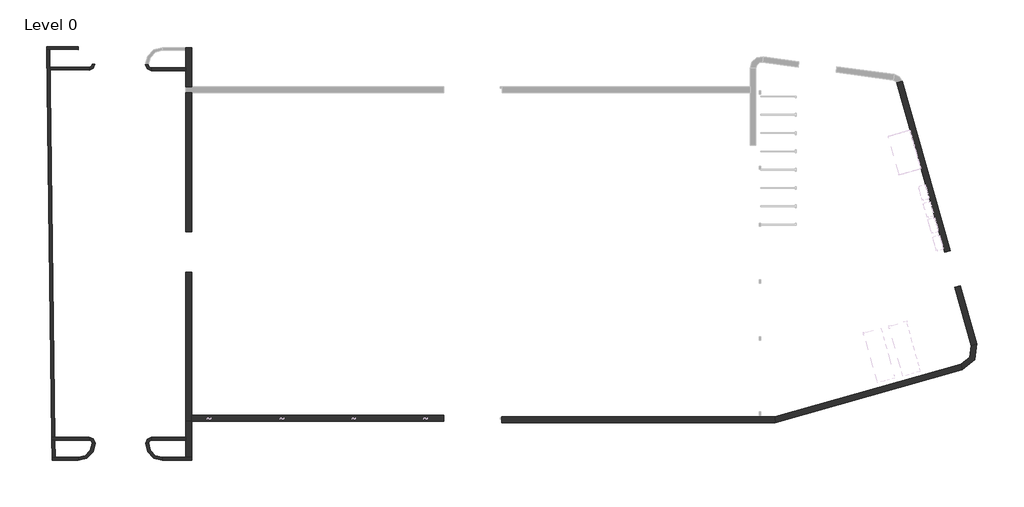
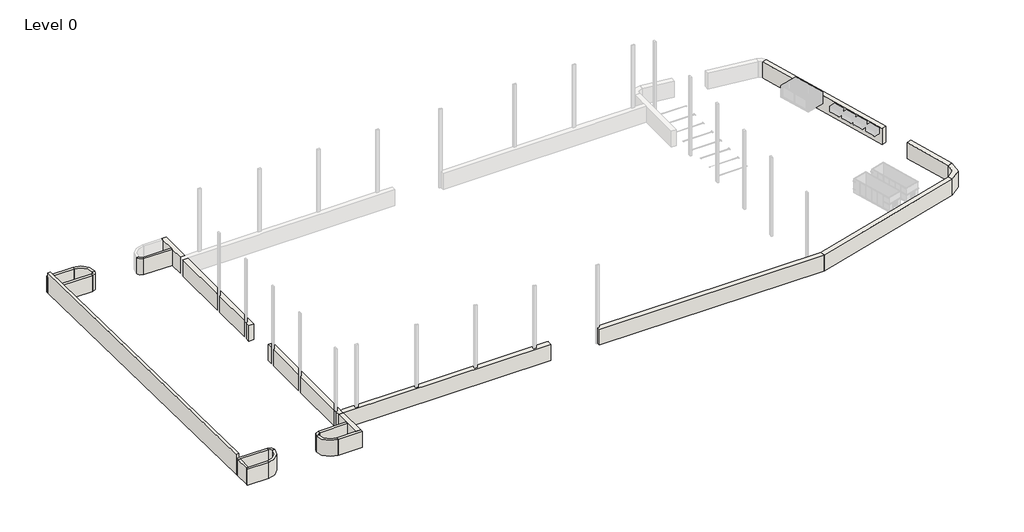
# One storey, part 1 of 2: 26 walls.
"""IFC4 building model written with IfcOpenShell, lengths in millimetres."""

import ifcopenshell
import ifcopenshell.guid

model = None  # the IFC model being written
_history = None  # IfcOwnerHistory: only IFC2X3 demands one
_inside = {}  # id of a spatial element -> (the spatial element, [elements in it])
_under = {}  # id of a project, library or spatial element -> (it, [spatial elements below it])
_declared = {}  # id of a project -> (the project, [libraries it declares])
_typed = {}  # id of a type object -> (the type object, [elements of that type])
_made_of = {}  # id of a material, layer set ... -> (it, [elements and type objects made of it])


def new_model(schema):
    """Start an empty IFC model of exactly this schema.

    Asked for "IFC4X3", IfcOpenShell would pick the latest addendum, in which some entities
    have other attributes; the version numbers below select the first issue.
    IFC2X3 requires an IfcOwnerHistory on every rooted entity: one is made here for all.
    """
    global model, _history
    if schema == "IFC4X3":
        model = ifcopenshell.file(schema_version=(4, 3, 0, 0))
    else:
        model = ifcopenshell.file(schema=schema)
    _inside.clear()
    _under.clear()
    _declared.clear()
    _typed.clear()
    _made_of.clear()
    _history = None
    if model.schema == "IFC2X3":
        org = make("IfcOrganization", Name="unknown")
        user = make(
            "IfcPersonAndOrganization",
            ThePerson=make("IfcPerson", FamilyName="unknown"),
            TheOrganization=org,
        )
        app = make(
            "IfcApplication",
            ApplicationDeveloper=org,
            Version="unknown",
            ApplicationFullName="unknown",
            ApplicationIdentifier="unknown",
        )
        _history = make(
            "IfcOwnerHistory",
            OwningUser=user,
            OwningApplication=app,
            ChangeAction="ADDED",
            CreationDate=0,
        )
    return model


def make(cls, **values):
    """One entity of the class cls with the attributes given. An attribute that is None is left unset."""
    return model.create_entity(
        cls, **{name: value for name, value in values.items() if value is not None}
    )


def rooted(cls, **values):
    """An entity with a GlobalId (a new one), such as an element, a storey or a relation."""
    return make(cls, GlobalId=ifcopenshell.guid.new(), OwnerHistory=_history, **values)


def si_unit(unit_type, name, prefix=None):
    """IfcSIUnit, for example si_unit("LENGTHUNIT", "METRE", prefix="MILLI")."""
    return make("IfcSIUnit", UnitType=unit_type, Prefix=prefix, Name=name)


def assignment(units):
    """IfcUnitAssignment: the units of a project."""
    return None if units is None else make("IfcUnitAssignment", Units=units)


def point(xyz):
    """IfcCartesianPoint."""
    return None if xyz is None else make("IfcCartesianPoint", Coordinates=xyz)


def direction(xyz):
    """IfcDirection."""
    return None if xyz is None else make("IfcDirection", DirectionRatios=xyz)


def frame(location, z_axis=None, x_axis=None):
    """IfcAxis2Placement3D, a coordinate frame: its origin and axes. An axis left out is left unset."""
    return make(
        "IfcAxis2Placement3D",
        Location=point(location),
        Axis=direction(z_axis),
        RefDirection=direction(x_axis),
    )


def frame_2d(location, x_axis=None):
    """IfcAxis2Placement2D, a coordinate frame in the plane: its origin and x axis."""
    return make(
        "IfcAxis2Placement2D", Location=point(location), RefDirection=direction(x_axis)
    )


def origin():
    """The frame at (0, 0, 0) with its axes left unset."""
    return frame((0.0, 0.0, 0.0))


def origin_with_axes():
    """The frame at (0, 0, 0) with the z axis (0, 0, 1) and the x axis (1, 0, 0) written out."""
    return frame((0.0, 0.0, 0.0), z_axis=(0.0, 0.0, 1.0), x_axis=(1.0, 0.0, 0.0))


def place(relative_to, where):
    """IfcLocalPlacement: puts the frame where relative to a parent placement (None: the world)."""
    return make(
        "IfcLocalPlacement", PlacementRelTo=relative_to, RelativePlacement=where
    )


def context(
    kind, dimensions, precision=None, world=None, true_north=None, identifier=None
):
    """IfcGeometricRepresentationContext, for example the 3D "Model" context."""
    return make(
        "IfcGeometricRepresentationContext",
        ContextIdentifier=identifier,
        ContextType=kind,
        CoordinateSpaceDimension=dimensions,
        Precision=precision,
        WorldCoordinateSystem=world,
        TrueNorth=true_north,
    )


def project(units=None, contexts=None):
    """IfcProject with its units and contexts."""
    return rooted(
        "IfcProject",
        Name="project",
        RepresentationContexts=contexts,
        UnitsInContext=assignment(units),
    )


def spatial(cls, under=None, at=None, **own):
    """A site, building, storey or space (cls), placed at a placement, below another one or the project."""
    s = rooted(cls, ObjectPlacement=at, **own)
    if under is not None:
        _under.setdefault(under.id(), (under, []))[1].append(s)
    return s


def polyline(points):
    """IfcPolyline through the points."""
    return make("IfcPolyline", Points=[point(p) for p in points])


def circle_curve(where, radius):
    """IfcCircle in the frame where."""
    return make("IfcCircle", Position=where, Radius=radius)


def trimmed(basis, trim1, trim2, sense, master):
    """IfcTrimmedCurve: the piece of a basis curve between two trims."""
    return make(
        "IfcTrimmedCurve",
        BasisCurve=basis,
        Trim1=trim1,
        Trim2=trim2,
        SenseAgreement=sense,
        MasterRepresentation=master,
    )


def segment(curve, same_sense, transition):
    """IfcCompositeCurveSegment."""
    return make(
        "IfcCompositeCurveSegment",
        Transition=transition,
        SameSense=same_sense,
        ParentCurve=curve,
    )


def composite_curve(segments, self_intersect=None):
    """IfcCompositeCurve: segments joined end to end."""
    return make("IfcCompositeCurve", Segments=segments, SelfIntersect=self_intersect)


def outline(outer, holes=None, kind="AREA"):
    """IfcArbitraryClosedProfileDef: a profile drawn as a closed curve; with holes, ...WithVoids."""
    if holes is None:
        return make("IfcArbitraryClosedProfileDef", ProfileType=kind, OuterCurve=outer)
    return make(
        "IfcArbitraryProfileDefWithVoids",
        ProfileType=kind,
        OuterCurve=outer,
        InnerCurves=holes,
    )


def extrude(swept, where, along, depth):
    """IfcExtrudedAreaSolid: the profile swept, set in the frame where, extruded along a direction by depth."""
    return make(
        "IfcExtrudedAreaSolid",
        SweptArea=swept,
        Position=where,
        ExtrudedDirection=direction(along),
        Depth=depth,
    )


def faces_of(points, faces, orient=None, outer=None):
    """IfcFace entities. A face is a list of loops; a loop is a list of indices into points, from 0.

    orient and outer hold one flag for each loop. By default every Orientation is true, the
    first loop of a face is its IfcFaceOuterBound and the others are IfcFaceBound.
    """
    made = []
    for i, loops in enumerate(faces):
        bounds = []
        for j, loop in enumerate(loops):
            is_outer = j == 0 if outer is None else outer[i][j]
            bounds.append(
                make(
                    "IfcFaceOuterBound" if is_outer else "IfcFaceBound",
                    Bound=make("IfcPolyLoop", Polygon=[points[k] for k in loop]),
                    Orientation=True if orient is None else orient[i][j],
                )
            )
        made.append(make("IfcFace", Bounds=bounds))
    return made


def faceted_brep(points, faces, orient=None, outer=None, voids=None):
    """IfcFacetedBrep: a solid bounded by flat faces; with voids (closed shells), ...WithVoids."""
    shared = [point(p) for p in points]
    hull = make("IfcClosedShell", CfsFaces=faces_of(shared, faces, orient, outer))
    if voids is None:
        return make("IfcFacetedBrep", Outer=hull)
    return make(
        "IfcFacetedBrepWithVoids",
        Outer=hull,
        Voids=[
            make(cls, CfsFaces=faces_of(shared, fs, o, b)) for cls, fs, o, b in voids
        ],
    )


def shape(context_of_items, identifier, shape_type, items):
    """IfcShapeRepresentation: the items that make up one representation, for example the "Body"."""
    return make(
        "IfcShapeRepresentation",
        ContextOfItems=context_of_items,
        RepresentationIdentifier=identifier,
        RepresentationType=shape_type,
        Items=items,
    )


def made_of(thing, what):
    """Note that an element or type object is made of a material, layer set ...; save() writes the relation."""
    if what is not None:
        _made_of.setdefault(what.id(), (what, []))[1].append(thing)
    return thing


def element(
    cls,
    number,
    at=None,
    inside=None,
    cuts=None,
    type_object=None,
    material=None,
    context=None,
    identifier="Body",
    shape_type=None,
    held_by="IfcProductDefinitionShape",
    body=None,
    shapes=None,
    **own,
):
    """One element of the class cls, such as IfcWall. Its Tag is "e" and its number.

    at: its placement. inside: the storey or other place that contains it. cuts: it is an
    opening in that element (IfcRelVoidsElement). A single representation is given by context,
    identifier, shape_type and body (its items); several are given by shapes. held_by: the class
    of the entity that holds the representations. save() writes the other relations.
    """
    e = rooted(cls, Tag="e%d" % number, ObjectPlacement=at, **own)
    if body is not None:
        shapes = [shape(context, identifier, shape_type, body)]
    if shapes is not None:
        e.Representation = make(held_by, Representations=shapes)
    if inside is not None:
        _inside.setdefault(inside.id(), (inside, []))[1].append(e)
    if cuts is not None:
        rooted(
            "IfcRelVoidsElement", RelatingBuildingElement=cuts, RelatedOpeningElement=e
        )
    if type_object is not None:
        _typed.setdefault(type_object.id(), (type_object, []))[1].append(e)
    return made_of(e, material)


def aggregate(whole, parts):
    """IfcRelAggregates: a whole, such as a stair, and the parts it consists of."""
    return rooted("IfcRelAggregates", RelatingObject=whole, RelatedObjects=parts)


def save(model, path):
    """Write the relations noted so far, then the file.

    IfcRelAggregates (storeys below a building ...), IfcRelContainedInSpatialStructure (elements
    in a storey), IfcRelDefinesByType, IfcRelAssociatesMaterial and IfcRelDeclares: one each for
    every whole, place, type object, material and project.
    """
    for whole, parts in _under.values():
        aggregate(whole, parts)
    for where, things in _inside.values():
        rooted(
            "IfcRelContainedInSpatialStructure",
            RelatedElements=things,
            RelatingStructure=where,
        )
    for kind, things in _typed.values():
        rooted("IfcRelDefinesByType", RelatedObjects=things, RelatingType=kind)
    for what, things in _made_of.values():
        rooted("IfcRelAssociatesMaterial", RelatedObjects=things, RelatingMaterial=what)
    for by, libraries in _declared.values():
        rooted("IfcRelDeclares", RelatingContext=by, RelatedDefinitions=libraries)
    model.write(path)


def plane_surface(at):
    """IfcPlane: the flat surface through the origin of the frame at, square to its z axis."""
    return make("IfcPlane", Position=at)


def cylinder_surface(at, radius):
    """IfcCylindricalSurface: all points at the distance radius from the z axis of the frame at."""
    return make("IfcCylindricalSurface", Position=at, Radius=radius)


def revolved_surface(curve, axis_point, axis_direction):
    """IfcSurfaceOfRevolution: the curve turned about the line through axis_point along axis_direction."""
    return make(
        "IfcSurfaceOfRevolution",
        SweptCurve=make("IfcArbitraryOpenProfileDef", ProfileType="CURVE", Curve=curve),
        AxisPosition=make("IfcAxis1Placement", Location=point(axis_point), Axis=direction(axis_direction)),
    )


def advanced_brep(points, edges, surfaces, faces):
    """IfcAdvancedBrep: a solid bounded by faces that lie on surfaces and meet in shared edges.

    An edge is (start, end): straight between two places in points (the first is 0);
    or (start, end, curve); or (start, end, curve, False) where it runs against its curve.
    A face is (place in surfaces, loops), or (place, loops, False) where it looks against
    its surface's normal. A loop lists edges by number (the first is 1), with a minus sign
    where the edge is run from its end to its start. The first loop is the outer one.
    """
    corners = [point(p) for p in points]
    vertices = [make("IfcVertexPoint", VertexGeometry=c) for c in corners]
    made = []
    for start, end, *more in edges:
        made.append(
            make(
                "IfcEdgeCurve",
                EdgeStart=vertices[start],
                EdgeEnd=vertices[end],
                EdgeGeometry=more[0] if more else make("IfcPolyline", Points=[corners[start], corners[end]]),
                SameSense=more[1] if len(more) > 1 else True,
            )
        )
    hull = []
    for where, loops, *sense in faces:
        bounds = []
        for j, loop in enumerate(loops):
            ring = [make("IfcOrientedEdge", EdgeElement=made[abs(k) - 1], Orientation=k > 0) for k in loop]
            bounds.append(
                make(
                    "IfcFaceOuterBound" if j == 0 else "IfcFaceBound",
                    Bound=make("IfcEdgeLoop", EdgeList=ring),
                    Orientation=True,
                )
            )
        hull.append(make("IfcAdvancedFace", Bounds=bounds, FaceSurface=surfaces[where], SameSense=sense[0] if sense else True))
    return make("IfcAdvancedBrep", Outer=make("IfcClosedShell", CfsFaces=hull))


model = new_model("IFC4")

# Units and contexts
model_context = context("Model", 3, world=origin())
ifc_project = project(units=[si_unit("LENGTHUNIT", "METRE", prefix="MILLI")], contexts=[model_context])

# Site, building, storey
site = spatial("IfcSite", under=ifc_project)
building = spatial("IfcBuilding", under=site)
storey = spatial("IfcBuildingStorey", under=building, Name="Level 0", Elevation=0.0)

# Walls
placement = place(None, origin())
element("IfcWall", 1, ObjectType="400 WIDE LANDSCAPE WALL", at=placement, inside=storey, context=model_context, shape_type="Brep", body=[
    faceted_brep([(-93629.8905835, -42194.1159452, 0.0), (-89652.2528943, -42194.1159452, 0.0), (-89652.2528943, -42194.1159452, 2800.0), (-93629.8905835, -42194.1159452, 2800.0), (-93629.8905835, -41794.1159452, 0.0), (-93629.8905835, -41794.1159452, 2800.0), (-90452.2528943, -41794.1159452, 2800.0), (-89652.2528943, -41794.1159452, 2800.0), (-89652.2528943, -41794.1159452, 0.0), (-90452.2528943, -41794.1159452, 0.0)], [[[0, 1, 2, 3]], [[4, 5, 6, 7, 8, 9]], [[1, 0, 4, 9, 8]], [[3, 2, 7, 6, 5]], [[0, 3, 5, 4]], [[2, 1, 8, 7]]]),
])
element("IfcWall", 2, ObjectType="400 WIDE LANDSCAPE WALL", at=placement, inside=storey, context=model_context, shape_type="SweptSolid", body=[
    extrude(outline(composite_curve([segment(polyline([(-95929.1780908, -39836.9262616), (-95529.3020026, -39846.8818661)]), True, "CONTINUOUS"), segment(trimmed(circle_curve(frame_2d((-93629.8905835, -39894.1709876)), 1900.0), [point((-95529.3020026, -39846.8818661))], [point((-93629.8905835, -41794.1709876))], True, "CARTESIAN"), True, "CONTINUOUS"), segment(polyline([(-93629.8905835, -41794.1709876), (-93629.8905835, -42194.1709876)]), True, "CONTINUOUS"), segment(trimmed(circle_curve(frame_2d((-93629.8905835, -39894.1709876)), 2300.0), [point((-93629.8905835, -42194.1709876))], [point((-95929.1780908, -39836.9262616))], False, "CARTESIAN"), True, "CONTINUOUS")], self_intersect=False)), origin_with_axes(), (0.0, 0.0, 1.0), 2800.0),
])
element("IfcWall", 3, ObjectType="400 WIDE LANDSCAPE WALL", at=placement, inside=storey, context=model_context, shape_type="SweptSolid", body=[
    extrude(outline(polyline([(-90452.2528943, -39441.919367), (-95128.6253815, -39441.919367), (-95128.6253815, -39041.919367), (-90452.2528943, -39041.919367), (-90452.2528943, -39441.919367)])), origin_with_axes(), (0.0, 0.0, 1.0), 2800.0),
])
element("IfcWall", 4, ObjectType="400 WIDE LANDSCAPE WALL", at=placement, inside=storey, context=model_context, shape_type="SweptSolid", body=[
    extrude(outline(composite_curve([segment(polyline([(-95528.6253815, -39841.919367), (-95928.6253815, -39841.919367)]), True, "CONTINUOUS"), segment(trimmed(circle_curve(frame_2d((-95128.6253815, -39841.919367)), 800.0), [point((-95928.6253815, -39841.919367))], [point((-95128.6253815, -39041.919367))], False, "CARTESIAN"), True, "CONTINUOUS"), segment(polyline([(-95128.6253815, -39041.919367), (-95128.6253815, -39441.919367)]), True, "CONTINUOUS"), segment(trimmed(circle_curve(frame_2d((-95128.6253815, -39841.919367)), 400.0), [point((-95128.6253815, -39441.919367))], [point((-95528.6253815, -39841.919367))], True, "CARTESIAN"), True, "CONTINUOUS")], self_intersect=False)), origin_with_axes(), (0.0, 0.0, 1.0), 2800.0),
])
element("IfcWall", 5, ObjectType="400 WIDE LANDSCAPE WALL", at=placement, inside=storey, context=model_context, shape_type="Brep", body=[
    faceted_brep([(-105113.3733383, -41794.1159452, 0.0), (-108290.9789512, -41794.1159452, 0.0), (-108691.0110276, -41794.1159452, 0.0), (-108691.0110276, -41794.1159452, 2800.0), (-108290.9789512, -41794.1159452, 2800.0), (-105113.3733383, -41794.1159452, 2800.0), (-105113.3733383, -42194.1159452, 0.0), (-105113.3733383, -42194.1159452, 2800.0), (-108685.9452476, -42194.1159452, 2800.0), (-108685.9452476, -42194.1159452, 0.0)], [[[0, 1, 2, 3, 4, 5]], [[6, 7, 8, 9]], [[2, 1, 0, 6, 9]], [[5, 4, 3, 8, 7]], [[0, 5, 7, 6]], [[3, 2, 9, 8]]]),
])
element("IfcWall", 6, ObjectType="400 WIDE LANDSCAPE WALL", at=placement, inside=storey, context=model_context, shape_type="AdvancedBrep", body=[
    advanced_brep(
    [(-103213.9619192, -39846.8818661, 2800.0), (-105113.3733383, -41794.1709876, 2800.0), (-105113.3733383, -42194.1709876, 2800.0), (-102814.085831, -39836.9262616, 2800.0), (-102814.6540343, -39836.940408, 2800.0), (-103014.6385404, -39841.919367, 2800.0), (-103213.9619192, -39846.8818661, 0.0), (-103014.6385404, -39841.919367, 0.0), (-102814.6540343, -39836.940408, 0.0), (-102814.085831, -39836.9262616, 0.0), (-105113.3733383, -42194.1709876, 0.0), (-105113.3733383, -41794.1709876, 0.0)],
    [
        (0, 1, circle_curve(frame((-105113.3733383, -39894.1709876, 2800.0), z_axis=(0.0, 0.0, -1.0), x_axis=(1.0, 0.0, 0.0)), 1900.0)),
        (1, 2),
        (2, 3, circle_curve(frame((-105113.3733383, -39894.1709876, 2800.0), z_axis=(0.0, 0.0, 1.0), x_axis=(1.0, 0.0, 0.0)), 2300.0)),
        (3, 4),
        (4, 5),
        (5, 0),
        (6, 7),
        (7, 8),
        (8, 9),
        (9, 10, circle_curve(frame((-105113.3733383, -39894.1709876, 0.0), z_axis=(0.0, 0.0, -1.0), x_axis=(1.0, 0.0, 0.0)), 2300.0)),
        (10, 11),
        (11, 6, circle_curve(frame((-105113.3733383, -39894.1709876, 0.0), z_axis=(0.0, 0.0, 1.0), x_axis=(1.0, 0.0, 0.0)), 1900.0)),
        (0, 6),
        (11, 1),
        (10, 2),
        (9, 3),
    ],
    [
        plane_surface(frame((-103213.3733383, -39894.1709876, 2800.0), z_axis=(0.0, 0.0, 1.0), x_axis=(0.0, -1.0, 0.0))),
        plane_surface(frame((-103213.3733383, -39894.1709876, 0.0), z_axis=(0.0, 0.0, -1.0), x_axis=(0.0, 1.0, 0.0))),
        revolved_surface(polyline([(-103213.3733383, -39894.1709876, 0.0), (-103213.3733383, -39894.1709876, 2800.0)]), (-105113.3733383, -39894.1709876, 0.0), (0.0, 0.0, -1.0)),
        plane_surface(frame((-105113.3733383, -41794.1709876, 2800.0), z_axis=(-1.0, 0.0, 0.0), x_axis=(0.0, 0.0, -1.0))),
        cylinder_surface(frame((-105113.3733383, -39894.1709876, 0.0), z_axis=(0.0, 0.0, 1.0), x_axis=(1.0, 0.0, 0.0)), 2300.0),
        plane_surface(frame((-102814.085831, -39836.9262616, 2800.0), z_axis=(-0.02488901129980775, 0.9996902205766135, 0.0), x_axis=(0.0, 0.0, -1.0))),
    ],
    [
        (0, [[1, 2, 3, 4, 5, 6]]),
        (1, [[7, 8, 9, 10, 11, 12]]),
        (2, [[-1, 13, -12, 14]]),
        (3, [[-2, -14, -11, 15]]),
        (4, [[-3, -15, -10, 16]]),
        (5, [[-6, -5, -4, -16, -9, -8, -7, -13]]),
    ],
),
])
element("IfcWall", 7, ObjectType="400 WIDE LANDSCAPE WALL", at=placement, inside=storey, context=model_context, shape_type="Brep", body=[
    faceted_brep([(-103614.6385404, -39041.919367, 0.0), (-108333.1837876, -39041.919367, 0.0), (-108725.8660829, -39041.919367, 0.0), (-108725.8660829, -39041.919367, 2800.0), (-103614.6385404, -39041.919367, 2800.0), (-103614.6385404, -39441.919367, 0.0), (-103614.6385404, -39441.919367, 2800.0), (-108320.7682266, -39441.919367, 2800.0), (-108720.800303, -39441.919367, 2800.0), (-108720.800303, -39441.919367, 0.0), (-108320.7682266, -39441.919367, 0.0)], [[[0, 1, 2, 3, 4]], [[5, 6, 7, 8, 9, 10]], [[2, 1, 0, 5, 10, 9]], [[4, 3, 8, 7, 6]], [[0, 4, 6, 5]], [[3, 2, 9, 8]]]),
])
element("IfcWall", 8, ObjectType="400 WIDE LANDSCAPE WALL", at=placement, inside=storey, context=model_context, shape_type="SweptSolid", body=[
    extrude(outline(composite_curve([segment(polyline([(-103614.6385404, -39441.919367), (-103614.6385404, -39041.919367)]), True, "CONTINUOUS"), segment(trimmed(circle_curve(frame_2d((-103614.6385404, -39841.919367)), 800.0), [point((-103614.6385404, -39041.919367))], [point((-102814.6540343, -39836.940408))], False, "CARTESIAN"), True, "CONTINUOUS"), segment(polyline([(-102814.6540343, -39836.940408), (-103014.6385404, -39841.919367), (-103214.6385404, -39841.919367)]), True, "CONTINUOUS"), segment(trimmed(circle_curve(frame_2d((-103614.6385404, -39841.919367)), 400.0), [point((-103214.6385404, -39841.919367))], [point((-103614.6385404, -39441.919367))], True, "CARTESIAN"), True, "CONTINUOUS")], self_intersect=False)), origin_with_axes(), (0.0, 0.0, 1.0), 2800.0),
])
element("IfcWall", 9, ObjectType="400 WIDE LANDSCAPE WALL", at=placement, inside=storey, context=model_context, shape_type="SweptSolid", body=[
    extrude(outline(polyline([(-90452.2528943, 10962.1194932), (-95157.1472593, 11003.2126306), (-95153.6537424, 11403.1973745), (-90452.2528943, 11362.1347499), (-90452.2528943, 10962.1194932)])), origin_with_axes(), (0.0, 0.0, 1.0), 2800.0),
])
element("IfcWall", 10, ObjectType="400 WIDE LANDSCAPE WALL", at=placement, inside=storey, context=model_context, shape_type="SweptSolid", body=[
    extrude(outline(composite_curve([segment(polyline([(-95153.6537424, 11403.1973745), (-95157.1472593, 11003.2126306)]), True, "CONTINUOUS"), segment(trimmed(circle_curve(frame_2d((-95150.1602255, 11803.1821183)), 800.0), [point((-95157.1472593, 11003.2126306))], [point((-95950.1577052, 11805.1902477))], False, "CARTESIAN"), True, "CONTINUOUS"), segment(polyline([(-95950.1577052, 11805.1902477), (-95750.1373413, 11808.4223937), (-95550.1449694, 11806.6756353)]), True, "CONTINUOUS"), segment(trimmed(circle_curve(frame_2d((-95150.1602255, 11803.1821183)), 400.0), [point((-95550.1449694, 11806.6756353))], [point((-95153.6537424, 11403.1973745))], True, "CARTESIAN"), True, "CONTINUOUS")], self_intersect=False)), origin_with_axes(), (0.0, 0.0, 1.0), 2800.0),
])
element("IfcWall", 11, ObjectType="400 WIDE LANDSCAPE WALL", at=placement, inside=storey, context=model_context, shape_type="Brep", body=[
    faceted_brep([(-105098.0723606, 14242.3547255, 0.0), (-109447.2166489, 14280.3406971, 0.0), (-109447.2166489, 14280.3406971, 2800.0), (-105098.0723606, 14242.3547255, 2800.0), (-105103.0155319, 13842.382643, 0.0), (-105103.0155319, 13842.382643, 2800.0), (-109441.8597285, 13880.2786523, 2800.0), (-109441.8597285, 13880.2786523, 0.0), (-109041.7770801, 13876.7842803, 0.0)], [[[0, 1, 2, 3]], [[4, 5, 6, 7, 8]], [[1, 0, 4, 8, 7]], [[3, 2, 6, 5]], [[0, 3, 5, 4]], [[2, 1, 7, 6]]]),
])
element("IfcWall", 12, ObjectType="400 WIDE LANDSCAPE WALL", at=placement, inside=storey, context=model_context, shape_type="AdvancedBrep", body=[
    advanced_brep(
    [(-102835.3711581, 11865.3124185, 2800.0), (-105098.0723606, 14242.3547255, 2800.0), (-105103.0155319, 13842.382643, 2800.0), (-103235.1450448, 11878.760078, 2800.0), (-103035.8726096, 11872.0569192, 2800.0), (-102835.9392162, 11865.3315269, 2800.0), (-102835.3711581, 11865.3124185, 0.0), (-102835.9392162, 11865.3315269, 0.0), (-103035.8726096, 11872.0569192, 0.0), (-103235.1450448, 11878.760078, 0.0), (-105103.0155319, 13842.382643, 0.0), (-105098.0723606, 14242.3547255, 0.0)],
    [
        (0, 1, circle_curve(frame((-105134.0710064, 11942.6364606, 2800.0), z_axis=(0.0, 0.0, 1.0), x_axis=(0.9999618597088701, -0.008733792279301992, 0.0)), 2300.0)),
        (1, 2),
        (2, 3, circle_curve(frame((-105134.0710064, 11942.6364606, 2800.0), z_axis=(0.0, 0.0, -1.0), x_axis=(0.9999618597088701, -0.008733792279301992, 0.0)), 1900.0)),
        (3, 4),
        (4, 5),
        (5, 0),
        (6, 7),
        (7, 8),
        (8, 9),
        (9, 10, circle_curve(frame((-105134.0710064, 11942.6364606, 0.0), z_axis=(0.0, 0.0, 1.0), x_axis=(0.9999618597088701, -0.008733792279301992, 0.0)), 1900.0)),
        (10, 11),
        (11, 6, circle_curve(frame((-105134.0710064, 11942.6364606, 0.0), z_axis=(0.0, 0.0, -1.0), x_axis=(0.9999618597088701, -0.008733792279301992, 0.0)), 2300.0)),
        (0, 6),
        (11, 1),
        (2, 10),
        (9, 3),
    ],
    [
        plane_surface(frame((-102834.1587291, 11922.5487384, 2800.0), z_axis=(0.0, 0.0, 1.0), x_axis=(0.008733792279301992, 0.9999618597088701, 0.0))),
        plane_surface(frame((-102834.1587291, 11922.5487384, 0.0), z_axis=(0.0, 0.0, -1.0), x_axis=(-0.008733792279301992, -0.9999618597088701, 0.0))),
        cylinder_surface(frame((-105134.0710064, 11942.6364606, 0.0), z_axis=(0.0, 0.0, 1.0), x_axis=(0.9999618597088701, -0.008733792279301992, 0.0)), 2300.0),
        revolved_surface(polyline([(-103234.14347295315, 11926.042255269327, 0.0), (-103234.14347295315, 11926.042255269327, 2800.0)]), (-105134.0710064, 11942.6364606, 0.0), (0.0, 0.0, -1.0)),
        plane_surface(frame((-103235.1450448, 11878.760078, 2800.0), z_axis=(-0.033619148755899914, -0.9994347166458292, 0.0), x_axis=(0.0, 0.0, -1.0))),
        plane_surface(frame((-105098.0723606, 14242.3547255, 0.0), z_axis=(-0.9999236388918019, 0.012357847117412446, 0.0), x_axis=(-0.012357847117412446, -0.9999236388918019, 0.0))),
    ],
    [
        (0, [[1, 2, 3, 4, 5, 6]]),
        (1, [[7, 8, 9, 10, 11, 12]]),
        (2, [[-1, 13, -12, 14]]),
        (3, [[-3, 15, -10, 16]]),
        (4, [[-6, -5, -4, -16, -9, -8, -7, -13]]),
        (5, [[-2, -14, -11, -15]]),
    ],
),
])
element("IfcWall", 13, ObjectType="400 WIDE LANDSCAPE WALL", at=placement, inside=storey, context=model_context, shape_type="SweptSolid", body=[
    extrude(outline(polyline([(-109010.2757557, 11524.2228488), (-103639.3432423, 11477.3124507), (-103642.8367592, 11077.3277068), (-109004.9188353, 11124.160804), (-109010.2757557, 11524.2228488)])), origin_with_axes(), (0.0, 0.0, 1.0), 2800.0),
])
element("IfcWall", 14, ObjectType="400 WIDE LANDSCAPE WALL", at=placement, inside=storey, context=model_context, shape_type="SweptSolid", body=[
    extrude(outline(composite_curve([segment(trimmed(circle_curve(frame_2d((-103635.8497254, 11877.2971946)), 400.0), [point((-103639.3432423, 11477.3124507))], [point((-103235.8649815, 11873.8036776))], True, "CARTESIAN"), True, "CONTINUOUS"), segment(polyline([(-103235.8649815, 11873.8036776), (-103035.8726096, 11872.0569192), (-102835.9392162, 11865.3315269)]), True, "CONTINUOUS"), segment(trimmed(circle_curve(frame_2d((-103635.8497254, 11877.2971946)), 800.0), [point((-102835.9392162, 11865.3315269))], [point((-103642.8367592, 11077.3277068))], False, "CARTESIAN"), True, "CONTINUOUS"), segment(polyline([(-103642.8367592, 11077.3277068), (-103639.3432423, 11477.3124507)]), True, "CONTINUOUS")], self_intersect=False)), origin_with_axes(), (0.0, 0.0, 1.0), 2800.0),
])
element("IfcWall", 15, ObjectType="400 WIDE LANDSCAPE WALL", at=placement, inside=storey, context=model_context, shape_type="Brep", body=[
    faceted_brep([(-108333.1837876, -39041.919367, 0.0), (-109004.9188353, 11124.160804, 0.0), (-109010.2757557, 11524.2228488, 0.0), (-109041.7770801, 13876.7842803, 0.0), (-109041.7770801, 13876.7842803, 3562.8613277), (-108333.1837876, -39041.919367, 3562.8613277), (-108733.2196456, -39041.919367, 0.0), (-108733.2196456, -39041.919367, 3562.8613277), (-109441.8597285, 13880.2786523, 3562.8613277), (-109441.8597285, 13880.2786523, 2800.0), (-109441.8597285, 13880.2786523, 0.0), (-108725.8660829, -39041.919367, 0.0)], [[[0, 1, 2, 3, 4, 5]], [[6, 7, 8, 9, 10]], [[3, 2, 1, 0, 11, 6, 10]], [[5, 4, 8, 7]], [[4, 3, 10, 9, 8]], [[0, 5, 7, 6, 11]]]),
])
element("IfcWall", 16, ObjectType="400 WIDE LANDSCAPE WALL", at=placement, inside=storey, context=model_context, shape_type="SweptSolid", body=[
    extrude(outline(polyline([(-108320.7682266, -39441.919367), (-108290.9789512, -41794.1159452), (-108691.0110276, -41794.1159452), (-108720.800303, -39441.919367), (-108320.7682266, -39441.919367)])), origin_with_axes(), (0.0, 0.0, 1.0), 2800.0),
])
element("IfcWall", 17, ObjectType="800 wide planter", at=placement, inside=storey, context=model_context, shape_type="SweptSolid", body=[
    extrude(outline(polyline([(15501.2653875, -29842.232045), (-9980.9888728, -37051.8782073), (-10091.9816779, -36251.8782073), (15283.4720949, -29072.4489056), (15501.2653875, -29842.232045)])), origin_with_axes(), (0.0, 0.0, 1.0), 2800.0),
])
element("IfcWall", 18, ObjectType="800 wide planter", at=placement, inside=storey, context=model_context, shape_type="SweptSolid", body=[
    extrude(outline(polyline([(15234.8474349, -18379.2148733), (17477.634161, -26306.2698663), (16707.8510216, -26524.0631588), (14465.0642954, -18597.0081659), (15234.8474349, -18379.2148733)])), origin_with_axes(), (0.0, 0.0, 1.0), 2800.0),
])
element("IfcWall", 19, ObjectType="800 wide planter", at=placement, inside=storey, context=model_context, shape_type="Brep", body=[
    faceted_brep([(-47298.0450997, -37051.8782073, 0.0), (-9980.9888728, -37051.8782073, 0.0), (-9980.9888728, -37051.8782073, 2800.0), (-47298.0450997, -37051.8782073, 2800.0), (-47298.0450997, -36251.8782073, 0.0), (-47298.0450997, -36251.8782073, 2800.0), (-10091.9816779, -36251.8782073, 2800.0), (-10091.9816779, -36251.8782073, 0.0), (-47298.0450997, -36605.9222204, 0.0), (-47298.0450997, -36405.9222204, 0.0), (-47298.0450997, -36405.9222204, 2800.0), (-47298.0450997, -36605.9222204, 2800.0)], [[[0, 1, 2, 3]], [[4, 5, 6, 7]], [[1, 0, 8, 9, 4, 7]], [[3, 2, 6, 5, 10, 11]], [[0, 3, 11, 10, 5, 4, 9, 8]], [[2, 1, 7, 6]]]),
])
element("IfcWall", 20, ObjectType="800 wide planter", at=placement, inside=storey, context=model_context, shape_type="SweptSolid", body=[
    extrude(outline(polyline([(7322.7560881, 9562.4467161), (13872.585711, -13568.3684843), (13102.8502885, -13786.3303602), (6562.2399071, 9311.9269597), (7322.7560881, 9562.4467161)])), origin_with_axes(), (0.0, 0.0, 1.0), 2800.0),
])
element("IfcWall", 21, ObjectType="800 wide planter", at=placement, inside=storey, context=model_context, shape_type="Brep", body=[
    faceted_brep([(-90452.2528943, 7978.5855015, 0.0), (-90452.2528943, -2040.9199596, 0.0), (-90452.2528943, -2490.9199596, 0.0), (-90452.2528943, -9800.9199596, 0.0), (-90452.2528943, -10250.9199596, 0.0), (-90452.2528943, -11005.9199596, 0.0), (-90452.2528943, -11005.9199596, 2800.0), (-90452.2528943, -10250.9199596, 2800.0), (-90452.2528943, -9800.9199596, 2800.0), (-90452.2528943, -2490.9199596, 2800.0), (-90452.2528943, -2040.9199596, 2800.0), (-90452.2528943, 7978.5855015, 2800.0), (-89652.2528943, 7978.5855015, 0.0), (-89652.2528943, 7978.5855015, 2000.0), (-89652.2528943, 7978.5855015, 2800.0), (-89652.2528943, 7694.0800404, 2800.0), (-89652.2528943, -1965.9199596, 2800.0), (-89652.2528943, -2565.9199596, 2800.0), (-89652.2528943, -9725.9199596, 2800.0), (-89652.2528943, -10325.9199596, 2800.0), (-89652.2528943, -11005.9199596, 2800.0), (-89652.2528943, -11005.9199596, 0.0)], [[[0, 1, 2, 3, 4, 5, 6, 7, 8, 9, 10, 11]], [[12, 13, 14, 15, 16, 17, 18, 19, 20, 21]], [[5, 4, 3, 2, 1, 0, 12, 21]], [[6, 5, 21, 20]], [[11, 10, 9, 8, 7, 6, 20, 19, 18, 17, 16, 15, 14]], [[0, 11, 14, 13, 12]]]),
])
element("IfcWall", 22, ObjectType="800 wide planter", at=placement, inside=storey, context=model_context, shape_type="Brep", body=[
    faceted_brep([(-90452.2528943, -16538.667229, 0.0), (-90452.2528943, -17560.9199596, 0.0), (-90452.2528943, -18010.9199596, 0.0), (-90452.2528943, -25320.9199596, 0.0), (-90452.2528943, -25770.9199596, 0.0), (-90452.2528943, -35580.9199596, 0.0), (-90452.2528943, -36030.9199596, 0.0), (-90452.2528943, -36838.667229, 0.0), (-90452.2528943, -36838.667229, 2800.0), (-90452.2528943, -36030.9199596, 2800.0), (-90452.2528943, -35580.9199596, 2800.0), (-90452.2528943, -25770.9199596, 2800.0), (-90452.2528943, -25320.9199596, 2800.0), (-90452.2528943, -18010.9199596, 2800.0), (-90452.2528943, -17560.9199596, 2800.0), (-90452.2528943, -16538.667229, 2800.0), (-89652.2528943, -16538.667229, 0.0), (-89652.2528943, -16538.667229, 2800.0), (-89652.2528943, -17485.9199596, 2800.0), (-89652.2528943, -18085.9199596, 2800.0), (-89652.2528943, -25245.9199596, 2800.0), (-89652.2528943, -25845.9199596, 2800.0), (-89652.2528943, -35505.9199596, 2800.0), (-89652.2528943, -36038.667229, 2800.0), (-89652.2528943, -36838.667229, 2800.0), (-89652.2528943, -36838.667229, 0.0), (-89652.2528943, -36038.667229, 0.0)], [[[0, 1, 2, 3, 4, 5, 6, 7, 8, 9, 10, 11, 12, 13, 14, 15]], [[16, 17, 18, 19, 20, 21, 22, 23, 24, 25, 26]], [[7, 6, 5, 4, 3, 2, 1, 0, 16, 26, 25]], [[15, 14, 13, 12, 11, 10, 9, 8, 24, 23, 22, 21, 20, 19, 18, 17]], [[0, 15, 17, 16]], [[8, 7, 25, 24]]]),
])
element("IfcWall", 23, ObjectType="800 wide planter", at=placement, inside=storey, context=model_context, shape_type="Brep", body=[
    faceted_brep([(-89652.2528943, -36838.667229, 0.0), (-55222.5881141, -36838.667229, 0.0), (-55222.5881141, -36838.667229, 2800.0), (-89652.2528943, -36838.667229, 2800.0), (-89652.2528943, -36038.667229, 0.0), (-89652.2528943, -36038.667229, 2000.0), (-89652.2528943, -36038.667229, 2800.0), (-89359.8408447, -36038.667229, 2800.0), (-77659.8408447, -36038.667229, 2800.0), (-77059.8408447, -36038.667229, 2800.0), (-67830.3056755, -36038.667229, 2800.0), (-67230.3056755, -36038.667229, 2800.0), (-55530.3056755, -36038.667229, 2800.0), (-55222.5881141, -36038.667229, 2800.0), (-55222.5881141, -36038.667229, 2000.0), (-55222.5881141, -36038.667229, 0.0), (-55222.5881141, -36105.9199596, 2800.0)], [[[0, 1, 2, 3]], [[4, 5, 6, 7, 8, 9, 10, 11, 12, 13, 14, 15]], [[1, 0, 4, 15]], [[2, 1, 15, 14, 13, 16]], [[3, 2, 16, 13, 12, 11, 10, 9, 8, 7, 6]], [[0, 3, 6, 5, 4]]]),
])
element("IfcWall", 24, ObjectType="800 wide planter", at=placement, inside=storey, context=model_context, shape_type="SweptSolid", body=[
    extrude(outline(composite_curve([segment(polyline([(15501.2653875, -29842.232045), (15283.4720949, -29072.4489056)]), True, "CONTINUOUS"), segment(trimmed(circle_curve(frame_2d((14721.4686848, -27086.0665689)), 2064.3552554), [point((15283.4720949, -29072.4489056))], [point((16707.8510216, -26524.0631588))], True, "CARTESIAN"), True, "CONTINUOUS"), segment(polyline([(16707.8510216, -26524.0631588), (17477.634161, -26306.2698663)]), True, "CONTINUOUS"), segment(trimmed(circle_curve(frame_2d((14721.4686848, -27086.0665689)), 2864.3552554), [point((17477.634161, -26306.2698663))], [point((15501.2653875, -29842.232045))], False, "CARTESIAN"), True, "CONTINUOUS")], self_intersect=False)), origin_with_axes(), (0.0, 0.0, 1.0), 2800.0),
])
element("IfcWall", 25, ObjectType="800 wide planter", at=placement, inside=storey, context=model_context, shape_type="Brep", body=[
    faceted_brep([(-89652.2528943, 8778.5855015, 0.0), (-89652.2528943, 14107.4490013, 0.0), (-89652.2528943, 14107.4490013, 2800.0), (-89652.2528943, 8778.5855015, 2800.0), (-90452.2528943, 8778.5855015, 0.0), (-90452.2528943, 8778.5855015, 2800.0), (-90452.2528943, 10962.1194932, 2800.0), (-90452.2528943, 11362.1347499, 2800.0), (-90452.2528943, 13714.4210449, 2800.0), (-90452.2528943, 14114.4363016, 2800.0), (-90452.2528943, 14114.4363016, 0.0), (-90452.2528943, 13714.4210449, 0.0), (-90452.2528943, 11362.1347499, 0.0), (-90452.2528943, 10962.1194932, 0.0)], [[[0, 1, 2, 3]], [[4, 5, 6, 7, 8, 9, 10, 11, 12, 13]], [[1, 0, 4, 13, 12, 11, 10]], [[3, 2, 9, 8, 7, 6, 5]], [[0, 3, 5, 4]], [[2, 1, 10, 9]]]),
])
element("IfcWall", 26, ObjectType="800 wide planter", at=placement, inside=storey, context=model_context, shape_type="Brep", body=[
    faceted_brep([(-90452.2528943, -36838.667229, 0.0), (-90452.2528943, -39041.919367, 0.0), (-90452.2528943, -39441.919367, 0.0), (-90452.2528943, -41794.1159452, 0.0), (-90452.2528943, -41794.1159452, 2800.0), (-90452.2528943, -39441.919367, 2800.0), (-90452.2528943, -39041.919367, 2800.0), (-90452.2528943, -36838.667229, 2800.0), (-89652.2528943, -36838.667229, 0.0), (-89652.2528943, -36838.667229, 2800.0), (-89652.2528943, -41794.1159452, 2800.0), (-89652.2528943, -41794.1159452, 0.0)], [[[0, 1, 2, 3, 4, 5, 6, 7]], [[8, 9, 10, 11]], [[3, 2, 1, 0, 8, 11]], [[7, 6, 5, 4, 10, 9]], [[0, 7, 9, 8]], [[4, 3, 11, 10]]]),
])

save(model, "model.ifc")
